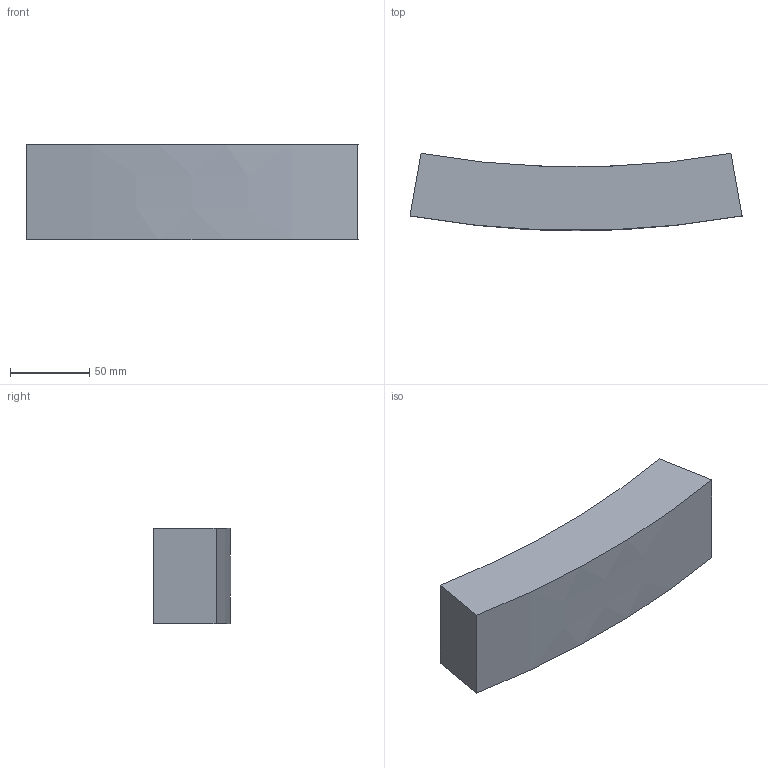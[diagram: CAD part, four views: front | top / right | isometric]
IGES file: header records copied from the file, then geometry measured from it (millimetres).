
Start section:  PTC IGES file: d160-1600_fixbloc_d560_pk-01.igs
Global section: file name: d160-1600_fixbloc_d560_pk-01.igs; native system: Creo Parametric by PTC Inc.; preprocessor: 2019030; author: demmerls; organization: Unknown; date: 20200928.084736; units: millimetre
Bounding box: 208.87 x 48.55 x 60 mm (x, y, z)
Surface area: 45387.6 mm2 (no closed solid volume)
Topology: 0 solids, 0 shells, 6 faces, 24 edges, 24 vertices
Faces by surface type: bspline 6
